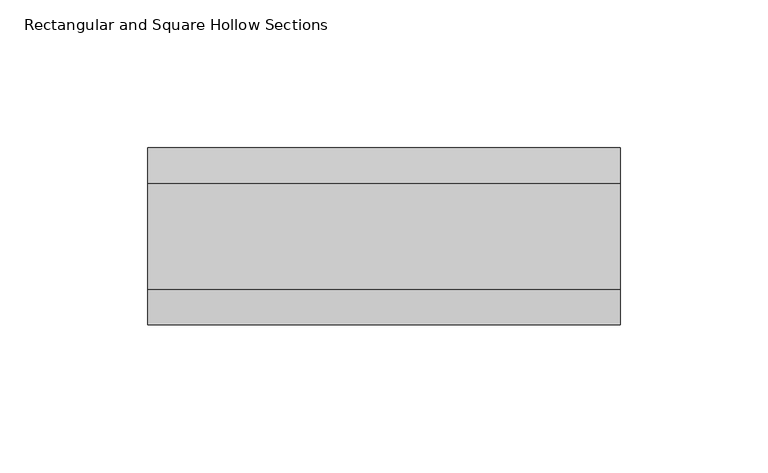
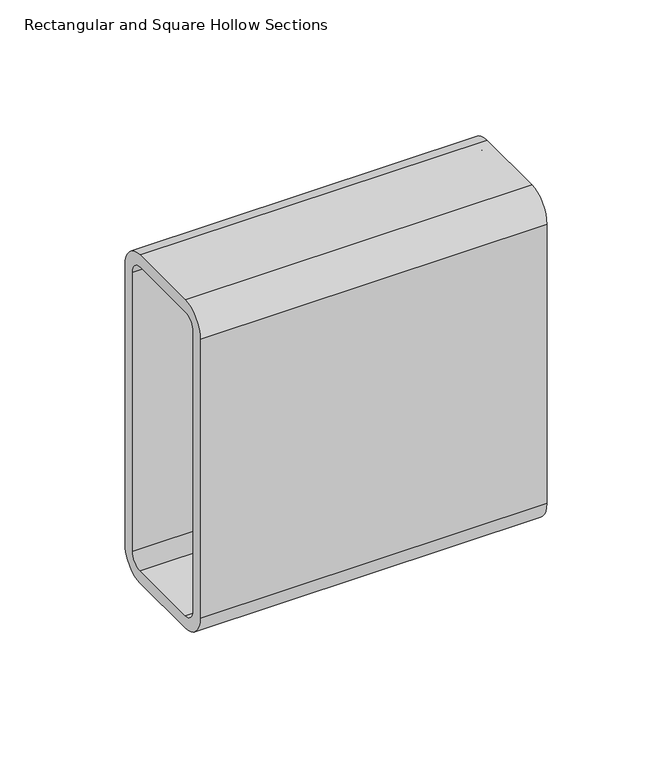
"""IFC4 building model written with IfcOpenShell, lengths in millimetres: beam geometry, Rectangular and Square Hollow Sections : TREC160x60x6."""

from ifc_helpers import new_model, si_unit, point, frame, frame_2d, origin, place, context, project, spatial, polyline, circle_curve, trimmed, segment, composite_curve, outline, extrude, source, transform, mapped, element, save


def rectangular_and_square_hollow_sections_0bb3da22(model_context):
    return source(origin(), model_context, "Body", "SweptSolid", [
        extrude(outline(composite_curve([segment(polyline([(30.0, 68.0), (30.0, -68.0)]), True, "CONTINUOUS"), segment(trimmed(circle_curve(frame_2d((18.0, -68.0)), 12.0), [point((30.0, -68.0))], [point((18.0, -80.0))], False, "CARTESIAN"), True, "CONTINUOUS"), segment(polyline([(18.0, -80.0), (-18.0, -80.0)]), True, "CONTINUOUS"), segment(trimmed(circle_curve(frame_2d((-18.0, -68.0)), 12.0), [point((-18.0, -80.0))], [point((-30.0, -68.0))], False, "CARTESIAN"), True, "CONTINUOUS"), segment(polyline([(-30.0, -68.0), (-30.0, 68.0)]), True, "CONTINUOUS"), segment(trimmed(circle_curve(frame_2d((-18.0, 68.0)), 12.0), [point((-30.0, 68.0))], [point((-18.0, 80.0))], False, "CARTESIAN"), True, "CONTINUOUS"), segment(polyline([(-18.0, 80.0), (18.0, 80.0)]), True, "CONTINUOUS"), segment(trimmed(circle_curve(frame_2d((18.0, 68.0)), 12.0), [point((18.0, 80.0))], [point((30.0, 68.0))], False, "CARTESIAN"), True, "CONTINUOUS")], self_intersect=False), holes=[composite_curve([segment(trimmed(circle_curve(frame_2d((-18.0, 68.0)), 6.0), [point((-18.0, 74.0))], [point((-24.0, 68.0))], True, "CARTESIAN"), True, "CONTINUOUS"), segment(polyline([(-24.0, 68.0), (-24.0, -68.0)]), True, "CONTINUOUS"), segment(trimmed(circle_curve(frame_2d((-18.0, -68.0)), 6.0), [point((-24.0, -68.0))], [point((-18.0, -74.0))], True, "CARTESIAN"), True, "CONTINUOUS"), segment(polyline([(-18.0, -74.0), (18.0, -74.0)]), True, "CONTINUOUS"), segment(trimmed(circle_curve(frame_2d((18.0, -68.0)), 6.0), [point((18.0, -74.0))], [point((24.0, -68.0))], True, "CARTESIAN"), True, "CONTINUOUS"), segment(polyline([(24.0, -68.0), (24.0, 68.0)]), True, "CONTINUOUS"), segment(trimmed(circle_curve(frame_2d((18.0, 68.0)), 6.0), [point((24.0, 68.0))], [point((18.0, 74.0))], True, "CARTESIAN"), True, "CONTINUOUS"), segment(polyline([(18.0, 74.0), (-18.0, 74.0)]), True, "CONTINUOUS")], self_intersect=False)]), frame((-67.0, 0.0, 0.0), z_axis=(1.0, 0.0, 0.0), x_axis=(0.0, 1.0, 0.0)), (0.0, 0.0, 1.0), 160.0065616),
    ])


if __name__ == "__main__":
    model = new_model("IFC4")
    model_context = context("Model", 3, world=origin())
    ifc_project = project(units=[si_unit("LENGTHUNIT", "METRE", prefix="MILLI")], contexts=[model_context])
    site = spatial("IfcSite", under=ifc_project)
    building = spatial("IfcBuilding", under=site)
    placement = place(None, origin())
    rectangular_and_square_hollow_sections_shape = rectangular_and_square_hollow_sections_0bb3da22(model_context)
    element("IfcBeam", 1, ObjectType="Rectangular and Square Hollow Sections : TREC160x60x6", at=placement, inside=building, context=model_context, shape_type="MappedRepresentation", body=[
        mapped(rectangular_and_square_hollow_sections_shape, transform((0.0, 0.0, 0.0), x_axis=(1.0, 0.0, 0.0), y_axis=(0.0, 1.0, 0.0), z_axis=(0.0, 0.0, 1.0))),
    ])
    save(model, "model.ifc")
